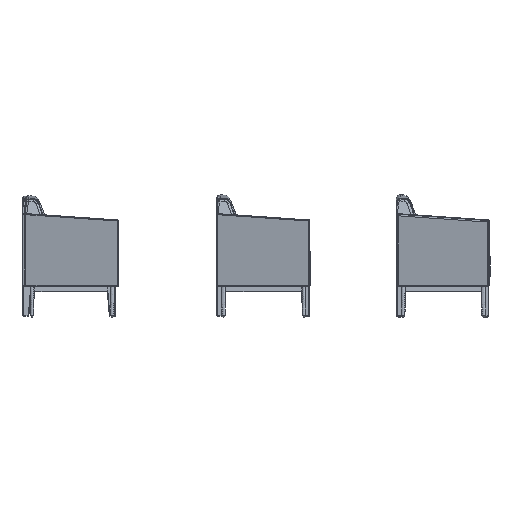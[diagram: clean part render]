
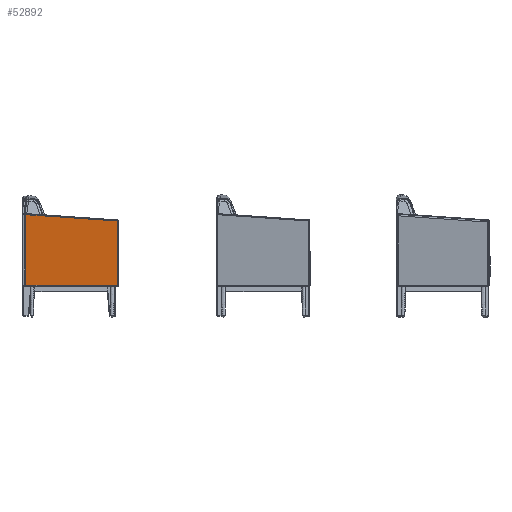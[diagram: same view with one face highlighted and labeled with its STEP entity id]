
A CAD part, left-side view. The second image highlights one B-rep face of the part: STEP entity #52892.
In plain terms, the highlighted planar face has unit normal (-0.993, 0, -0.119).
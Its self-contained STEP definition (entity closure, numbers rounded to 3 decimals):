
#5799=PLANE('',#57507);
#7286=FACE_OUTER_BOUND('',#11154,.T.);
#11154=EDGE_LOOP('',(#38470,#38471,#38472,#38473));
#14591=LINE('',#97751,#16708);
#14606=LINE('',#97961,#16723);
#14613=LINE('',#97992,#16730);
#14615=LINE('',#97996,#16732);
#16708=VECTOR('',#65102,0.394);
#16723=VECTOR('',#65229,0.394);
#16730=VECTOR('',#65256,0.394);
#16732=VECTOR('',#65262,0.394);
#22483=VERTEX_POINT('',#97735);
#22487=VERTEX_POINT('',#97749);
#22527=VERTEX_POINT('',#97956);
#22528=VERTEX_POINT('',#97960);
#28092=EDGE_CURVE('',#22483,#22487,#14591,.T.);
#28152=EDGE_CURVE('',#22528,#22527,#14606,.T.);
#28166=EDGE_CURVE('',#22527,#22483,#14613,.T.);
#28168=EDGE_CURVE('',#22487,#22528,#14615,.T.);
#38470=ORIENTED_EDGE('',*,*,#28166,.T.);
#38471=ORIENTED_EDGE('',*,*,#28092,.T.);
#38472=ORIENTED_EDGE('',*,*,#28168,.T.);
#38473=ORIENTED_EDGE('',*,*,#28152,.T.);
#52892=ADVANCED_FACE('',(#7286),#5799,.F.);
#57507=AXIS2_PLACEMENT_3D('',#97995,#65260,#65261);
#65102=DIRECTION('',(0.,-1.,0.));
#65229=DIRECTION('',(-0.008,0.998,0.069));
#65256=DIRECTION('',(0.119,0.,-0.993));
#65260=DIRECTION('center_axis',(0.993,0.,
0.119));
#65261=DIRECTION('ref_axis',(0.119,0.,-0.993));
#65262=DIRECTION('',(-0.119,0.,0.993));
#97735=CARTESIAN_POINT('',(0.018,1.577,7.696));
#97749=CARTESIAN_POINT('',(0.018,-21.81,7.696));
#97751=CARTESIAN_POINT('',(0.018,1.827,7.696));
#97956=CARTESIAN_POINT('',(-2.144,1.577,25.758));
#97960=CARTESIAN_POINT('',(-1.95,-21.81,24.131));
#97961=CARTESIAN_POINT('',(-2.141,1.194,25.731));
#97992=CARTESIAN_POINT('',(-0.501,1.577,12.032));
#97995=CARTESIAN_POINT('Origin',(0.045,1.827,7.476));
#97996=CARTESIAN_POINT('',(-0.451,-21.81,11.616));
